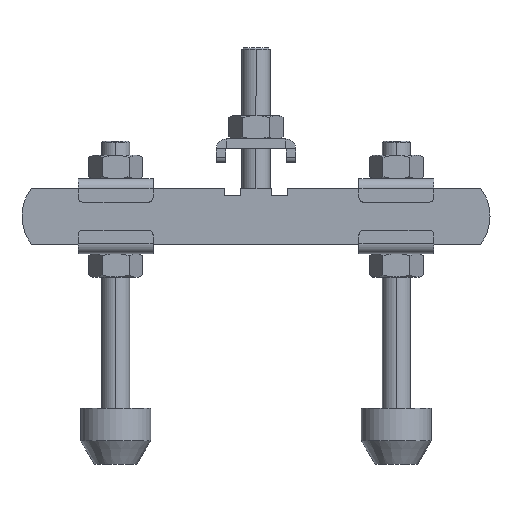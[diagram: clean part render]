
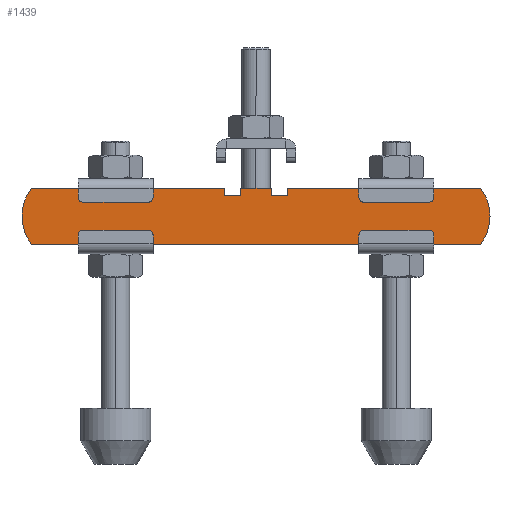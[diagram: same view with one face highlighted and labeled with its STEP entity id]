
A CAD part, top view. The second image highlights one B-rep face of the part: STEP entity #1439.
In plain terms, the highlighted planar face has unit normal (0, 0, 1).
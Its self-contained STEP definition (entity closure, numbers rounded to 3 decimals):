
#53 = EDGE_CURVE ( 'NONE', #871, #3236, #2277, .T. ) ;
#76 = CIRCLE ( 'NONE', #1521, 10. ) ;
#77 = CARTESIAN_POINT ( 'NONE',  ( -6.75, 6., 0. ) ) ;
#83 = LINE ( 'NONE', #108, #2319 ) ;
#92 = DIRECTION ( 'NONE',  ( 1., 0., 0. ) ) ;
#108 = CARTESIAN_POINT ( 'NONE',  ( 6.75, 4.5, 0. ) ) ;
#274 = CARTESIAN_POINT ( 'NONE',  ( -40., 0., 0. ) ) ;
#298 = CARTESIAN_POINT ( 'NONE',  ( 6.75, 4.5, 0. ) ) ;
#306 = ORIENTED_EDGE ( 'NONE', *, *, #864, .T. ) ;
#332 = EDGE_CURVE ( 'NONE', #1736, #1511, #3351, .T. ) ;
#370 = EDGE_CURVE ( 'NONE', #449, #1901, #1197, .T. ) ;
#384 = CARTESIAN_POINT ( 'NONE',  ( -48., 6., 0. ) ) ;
#415 = DIRECTION ( 'NONE',  ( 1., 0., 0. ) ) ;
#449 = VERTEX_POINT ( 'NONE', #866 ) ;
#528 = CARTESIAN_POINT ( 'NONE',  ( -6.75, 6., 0. ) ) ;
#556 = LINE ( 'NONE', #1445, #3638 ) ;
#591 = EDGE_CURVE ( 'NONE', #3058, #783, #2125, .T. ) ;
#610 = CARTESIAN_POINT ( 'NONE',  ( -3.25, 6., 0. ) ) ;
#703 = CARTESIAN_POINT ( 'NONE',  ( -40., 0., 0. ) ) ;
#763 = ORIENTED_EDGE ( 'NONE', *, *, #332, .F. ) ;
#783 = VERTEX_POINT ( 'NONE', #3404 ) ;
#790 = LINE ( 'NONE', #3335, #2227 ) ;
#796 = VECTOR ( 'NONE', #92, 1000. ) ;
#801 = VERTEX_POINT ( 'NONE', #298 ) ;
#812 = ORIENTED_EDGE ( 'NONE', *, *, #53, .F. ) ;
#864 = EDGE_CURVE ( 'NONE', #871, #2860, #969, .T. ) ;
#866 = CARTESIAN_POINT ( 'NONE',  ( 50., 0., 0. ) ) ;
#871 = VERTEX_POINT ( 'NONE', #77 ) ;
#881 = VECTOR ( 'NONE', #3533, 1000. ) ;
#895 = EDGE_CURVE ( 'NONE', #3236, #3058, #1577, .T. ) ;
#906 = ORIENTED_EDGE ( 'NONE', *, *, #1761, .T. ) ;
#920 = CARTESIAN_POINT ( 'NONE',  ( 40., 0., 0. ) ) ;
#969 = LINE ( 'NONE', #1518, #881 ) ;
#981 = CARTESIAN_POINT ( 'NONE',  ( 48., -6., 0. ) ) ;
#1083 = CARTESIAN_POINT ( 'NONE',  ( -6.75, 4.5, 0. ) ) ;
#1197 = CIRCLE ( 'NONE', #2869, 10. ) ;
#1208 = DIRECTION ( 'NONE',  ( -1., 0., 0. ) ) ;
#1224 = CARTESIAN_POINT ( 'NONE',  ( -6.75, 4.5, 0. ) ) ;
#1285 = EDGE_LOOP ( 'NONE', ( #2313, #3234, #763, #2325, #3195, #2690, #812, #306, #2916, #906, #2719, #2533, #2523 ) ) ;
#1286 = EDGE_CURVE ( 'NONE', #2860, #2585, #76, .T. ) ;
#1321 = CARTESIAN_POINT ( 'NONE',  ( 48., 6., 0. ) ) ;
#1366 = EDGE_CURVE ( 'NONE', #1901, #2573, #790, .T. ) ;
#1426 = CARTESIAN_POINT ( 'NONE',  ( 3.25, 4.5, 0. ) ) ;
#1439 = ADVANCED_FACE ( 'NONE', ( #2109 ), #1680, .T. ) ;
#1445 = CARTESIAN_POINT ( 'NONE',  ( 6.75, 6., 0. ) ) ;
#1451 = CARTESIAN_POINT ( 'NONE',  ( 40., 0., 0. ) ) ;
#1485 = VECTOR ( 'NONE', #1827, 1000. ) ;
#1511 = VERTEX_POINT ( 'NONE', #1426 ) ;
#1518 = CARTESIAN_POINT ( 'NONE',  ( -48., 6., 0. ) ) ;
#1521 = AXIS2_PLACEMENT_3D ( 'NONE', #703, #2458, #415 ) ;
#1577 = LINE ( 'NONE', #1224, #796 ) ;
#1611 = CARTESIAN_POINT ( 'NONE',  ( -3.25, 4.5, 0. ) ) ;
#1680 = PLANE ( 'NONE',  #3464 ) ;
#1736 = VERTEX_POINT ( 'NONE', #2137 ) ;
#1750 = DIRECTION ( 'NONE',  ( -1., 0., 0. ) ) ;
#1761 = EDGE_CURVE ( 'NONE', #2585, #2960, #2840, .T. ) ;
#1827 = DIRECTION ( 'NONE',  ( 0., -1., 0. ) ) ;
#1829 = CARTESIAN_POINT ( 'NONE',  ( -48., -6., 0. ) ) ;
#1892 = CARTESIAN_POINT ( 'NONE',  ( 6.75, 6., 0. ) ) ;
#1901 = VERTEX_POINT ( 'NONE', #1321 ) ;
#2031 = EDGE_CURVE ( 'NONE', #801, #2573, #556, .T. ) ;
#2109 = FACE_OUTER_BOUND ( 'NONE', #1285, .T. ) ;
#2125 = LINE ( 'NONE', #610, #2899 ) ;
#2133 = DIRECTION ( 'NONE',  ( 1., 0., 0. ) ) ;
#2137 = CARTESIAN_POINT ( 'NONE',  ( 3.25, 6., 0. ) ) ;
#2171 = DIRECTION ( 'NONE',  ( 1., 0., 0. ) ) ;
#2227 = VECTOR ( 'NONE', #2734, 1000. ) ;
#2277 = LINE ( 'NONE', #528, #1485 ) ;
#2313 = ORIENTED_EDGE ( 'NONE', *, *, #2031, .F. ) ;
#2319 = VECTOR ( 'NONE', #2133, 1000. ) ;
#2325 = ORIENTED_EDGE ( 'NONE', *, *, #3503, .T. ) ;
#2333 = DIRECTION ( 'NONE',  ( 0., 1., 0. ) ) ;
#2369 = EDGE_CURVE ( 'NONE', #2960, #449, #2744, .T. ) ;
#2385 = AXIS2_PLACEMENT_3D ( 'NONE', #920, #2954, #1208 ) ;
#2404 = VECTOR ( 'NONE', #2706, 1000. ) ;
#2458 = DIRECTION ( 'NONE',  ( 0., 0., 1. ) ) ;
#2503 = VECTOR ( 'NONE', #3200, 1000. ) ;
#2523 = ORIENTED_EDGE ( 'NONE', *, *, #1366, .T. ) ;
#2533 = ORIENTED_EDGE ( 'NONE', *, *, #370, .T. ) ;
#2573 = VERTEX_POINT ( 'NONE', #1892 ) ;
#2585 = VERTEX_POINT ( 'NONE', #3330 ) ;
#2601 = CARTESIAN_POINT ( 'NONE',  ( 3.25, 6., 0. ) ) ;
#2654 = DIRECTION ( 'NONE',  ( 0., 1., 0. ) ) ;
#2670 = LINE ( 'NONE', #2985, #2404 ) ;
#2690 = ORIENTED_EDGE ( 'NONE', *, *, #895, .F. ) ;
#2706 = DIRECTION ( 'NONE',  ( -1., 0., 0. ) ) ;
#2719 = ORIENTED_EDGE ( 'NONE', *, *, #2369, .T. ) ;
#2734 = DIRECTION ( 'NONE',  ( -1., 0., 0. ) ) ;
#2744 = CIRCLE ( 'NONE', #2385, 10. ) ;
#2840 = LINE ( 'NONE', #1829, #3498 ) ;
#2860 = VERTEX_POINT ( 'NONE', #384 ) ;
#2869 = AXIS2_PLACEMENT_3D ( 'NONE', #1451, #3474, #1750 ) ;
#2899 = VECTOR ( 'NONE', #2654, 1000. ) ;
#2916 = ORIENTED_EDGE ( 'NONE', *, *, #1286, .T. ) ;
#2954 = DIRECTION ( 'NONE',  ( 0., 0., 1. ) ) ;
#2960 = VERTEX_POINT ( 'NONE', #981 ) ;
#2985 = CARTESIAN_POINT ( 'NONE',  ( -48., 6., 0. ) ) ;
#3058 = VERTEX_POINT ( 'NONE', #1611 ) ;
#3113 = DIRECTION ( 'NONE',  ( 0., 0., 1. ) ) ;
#3146 = DIRECTION ( 'NONE',  ( 1., 0., 0. ) ) ;
#3195 = ORIENTED_EDGE ( 'NONE', *, *, #591, .F. ) ;
#3200 = DIRECTION ( 'NONE',  ( 0., -1., 0. ) ) ;
#3234 = ORIENTED_EDGE ( 'NONE', *, *, #3540, .F. ) ;
#3236 = VERTEX_POINT ( 'NONE', #1083 ) ;
#3330 = CARTESIAN_POINT ( 'NONE',  ( -48., -6., 0. ) ) ;
#3335 = CARTESIAN_POINT ( 'NONE',  ( -48., 6., 0. ) ) ;
#3351 = LINE ( 'NONE', #2601, #2503 ) ;
#3404 = CARTESIAN_POINT ( 'NONE',  ( -3.25, 6., 0. ) ) ;
#3464 = AXIS2_PLACEMENT_3D ( 'NONE', #274, #3113, #3146 ) ;
#3474 = DIRECTION ( 'NONE',  ( 0., 0., 1. ) ) ;
#3498 = VECTOR ( 'NONE', #2171, 1000. ) ;
#3503 = EDGE_CURVE ( 'NONE', #1736, #783, #2670, .T. ) ;
#3533 = DIRECTION ( 'NONE',  ( -1., 0., 0. ) ) ;
#3540 = EDGE_CURVE ( 'NONE', #1511, #801, #83, .T. ) ;
#3638 = VECTOR ( 'NONE', #2333, 1000. ) ;
